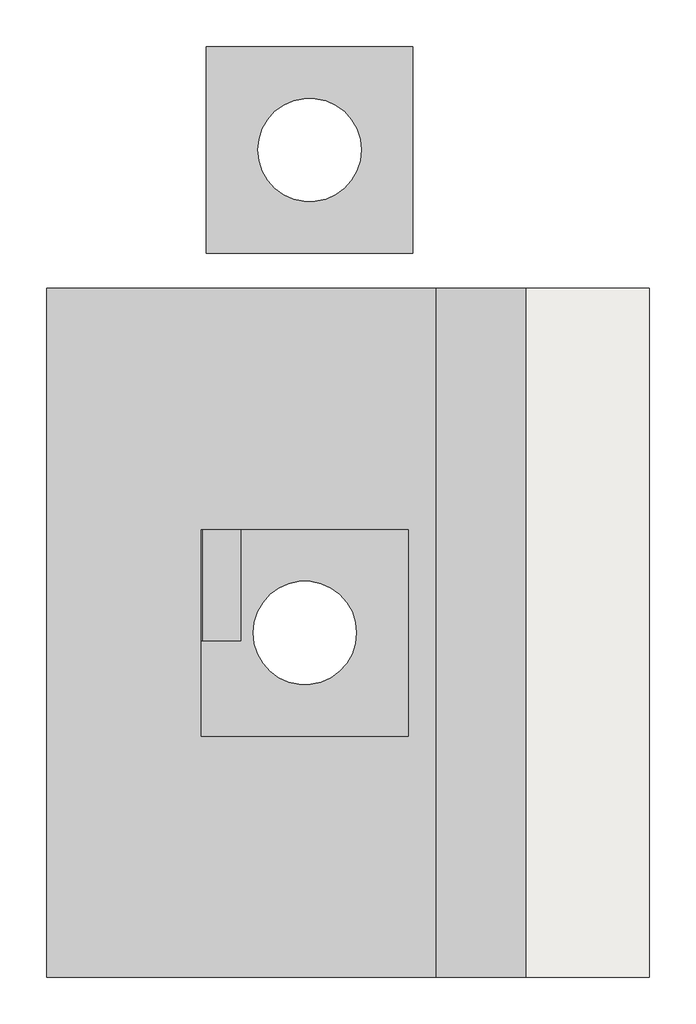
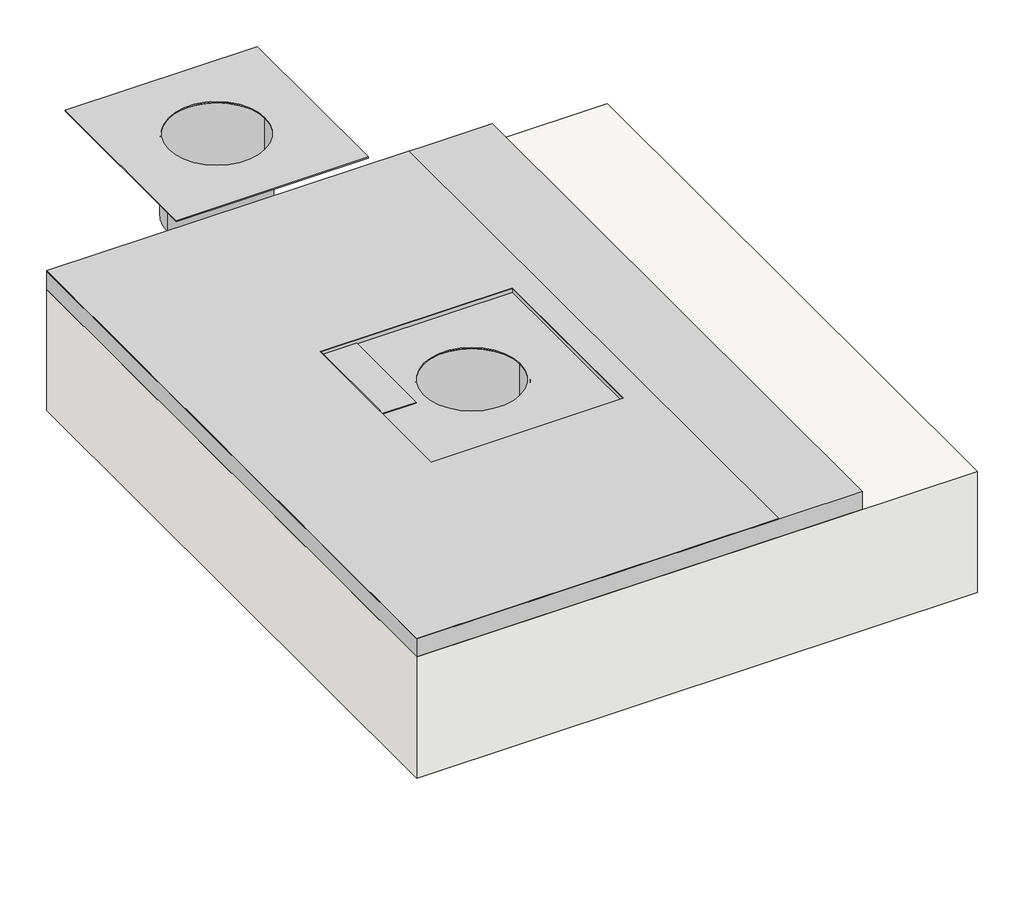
# One storey: 3 proxies, 1 slab.
"""IFC4 building model written with IfcOpenShell, lengths in millimetres."""

from ifc_helpers import new_model, si_unit, point, frame, frame_2d, origin, place, context, project, spatial, polyline, circle_curve, trimmed, segment, composite_curve, outline, extrude, transform, mapped, element, save
from components import generic_models_2e1e7297, generic_models_2ac0e569, entourage_1037a191

model = new_model("IFC4")

# Units and contexts
model_context = context("Model", 3, world=origin())
ifc_project = project(units=[si_unit("LENGTHUNIT", "METRE", prefix="MILLI")], contexts=[model_context])

# Site, building, storey
site = spatial("IfcSite", under=ifc_project)
building = spatial("IfcBuilding", under=site)
storey = spatial("IfcBuildingStorey", under=building, Name="ARQ Térreo", Elevation=-2.523798)

# Proxies
placement = place(None, origin())
generic_models_shape = generic_models_2e1e7297(model_context)
element("IfcBuildingElementProxy", 1, Name="IMPER:IMPER:433934 : IMPER:IMPER:433934", ObjectType="IMPER:IMPER:433934 : IMPER:IMPER:433934", at=placement, inside=storey, context=model_context, shape_type="MappedRepresentation", body=[
    mapped(generic_models_shape, transform((0.0, 0.0, 0.0), x_axis=(1.0, 0.0, 0.0), y_axis=(0.0, 1.0, 0.0), z_axis=(0.0, 0.0, 1.0))),
])
generic_models_2_shape = generic_models_2ac0e569(model_context)
element("IfcBuildingElementProxy", 2, Name="Modelos genéricos 1 : Modelos genéricos 1", ObjectType="Modelos genéricos 1 : Modelos genéricos 1", at=placement, inside=storey, context=model_context, shape_type="MappedRepresentation", body=[
    mapped(generic_models_2_shape, transform((0.0, 0.0, 0.0), x_axis=(1.0, 0.0, 0.0), y_axis=(0.0, 1.0, 0.0), z_axis=(0.0, 0.0, 1.0))),
])
entourage_shape = entourage_1037a191(model_context)
element("IfcBuildingElementProxy", 3, Name="Viaboc Ralo 150mm : Viaboc Ralo 150mm", ObjectType="Viaboc Ralo 150mm : Viaboc Ralo 150mm", at=placement, inside=storey, context=model_context, shape_type="MappedRepresentation", body=[
    mapped(entourage_shape, transform((929.5519189, -536.9387185, -2.523798), x_axis=(1.0, 0.0, 0.0), y_axis=(0.0, 1.0, 0.0), z_axis=(0.0, 0.0, 1.0))),
])

# Slab
element("IfcSlab", 4, ObjectType="Piso:LAJE CONCRETO", at=placement, inside=storey, context=model_context, shape_type="SweptSolid", body=[
    extrude(outline(polyline([(1422.8103968, -1738.0570215), (547.8103968, -1738.0570215), (547.8103968, -738.0570215), (1422.8103968, -738.0570215), (1422.8103968, -1738.0570215)]), holes=[composite_curve([segment(trimmed(circle_curve(frame_2d((922.6644952, -1237.9912025)), 79.0), [point((1001.6644952, -1237.9912025))], [point((843.6644952, -1237.9912025))], True, "CARTESIAN"), True, "CONTINUOUS"), segment(trimmed(circle_curve(frame_2d((922.6644952, -1237.9912025)), 79.0), [point((843.6644952, -1237.9912025))], [point((1001.6644952, -1237.9912025))], True, "CARTESIAN"), True, "CONTINUOUS")], self_intersect=False)]), frame((0.0, 0.0, -202.523798), z_axis=(0.0, 0.0, 1.0), x_axis=(1.0, 0.0, 0.0)), (0.0, 0.0, 1.0), 200.0),
])

save(model, "model.ifc")
